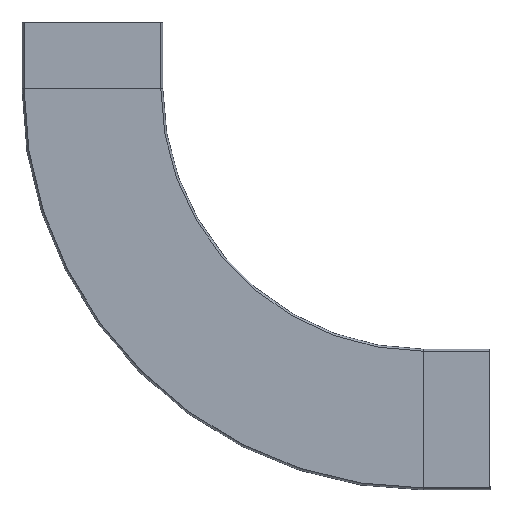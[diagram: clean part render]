
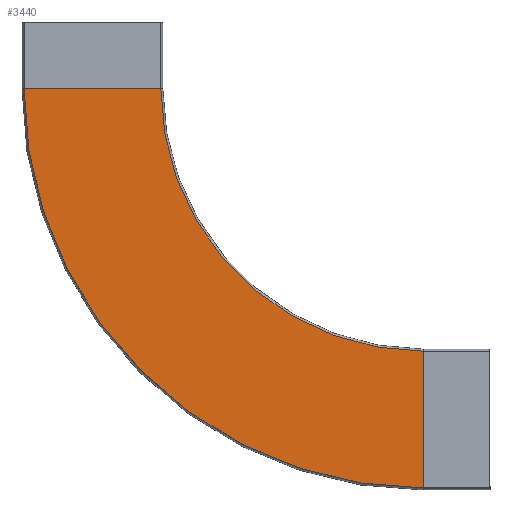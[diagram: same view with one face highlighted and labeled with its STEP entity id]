
A CAD part, front view. The second image highlights one B-rep face of the part: STEP entity #3440.
In plain terms, the highlighted planar face has unit normal (0, -1, 0).
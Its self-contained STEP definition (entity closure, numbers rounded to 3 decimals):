
#297 = EDGE_LOOP ( 'NONE', ( #4542, #4750, #4769, #4796 ) ) ;
#960 = CARTESIAN_POINT ( 'NONE',  ( 200., -56.5, -198.725 ) ) ;
#980 = CARTESIAN_POINT ( 'NONE',  ( -41.275, -56.5, -40. ) ) ;
#1268 = AXIS2_PLACEMENT_3D ( 'NONE', #5085, #5014, #4907 ) ;
#1292 = AXIS2_PLACEMENT_3D ( 'NONE', #4709, #4774, #4753 ) ;
#1509 = VECTOR ( 'NONE', #3480, 1000. ) ;
#1644 = LINE ( 'NONE', #5139, #1509 ) ;
#2272 = AXIS2_PLACEMENT_3D ( 'NONE', #4910, #4714, #4701 ) ;
#2374 = EDGE_CURVE ( 'NONE', #5570, #4146, #1644, .T. ) ;
#2380 = VERTEX_POINT ( 'NONE', #3281 ) ;
#2915 = VECTOR ( 'NONE', #5248, 1000. ) ;
#2922 = CIRCLE ( 'NONE', #1292, 158.725 ) ;
#2948 = CIRCLE ( 'NONE', #1268, 241.275 ) ;
#2957 = LINE ( 'NONE', #5126, #2915 ) ;
#3090 = VERTEX_POINT ( 'NONE', #960 ) ;
#3281 = CARTESIAN_POINT ( 'NONE',  ( 200., -56.5, -281.275 ) ) ;
#3440 = ADVANCED_FACE ( 'NONE', ( #3952 ), #4761, .F. ) ;
#3480 = DIRECTION ( 'NONE',  ( -1., 0., 0. ) ) ;
#3806 = EDGE_CURVE ( 'NONE', #2380, #4146, #2948, .T. ) ;
#3810 = EDGE_CURVE ( 'NONE', #2380, #3090, #2957, .T. ) ;
#3815 = EDGE_CURVE ( 'NONE', #3090, #5570, #2922, .T. ) ;
#3952 = FACE_OUTER_BOUND ( 'NONE', #297, .T. ) ;
#4072 = CARTESIAN_POINT ( 'NONE',  ( 41.275, -56.5, -40. ) ) ;
#4146 = VERTEX_POINT ( 'NONE', #980 ) ;
#4542 = ORIENTED_EDGE ( 'NONE', *, *, #2374, .T. ) ;
#4701 = DIRECTION ( 'NONE',  ( 0., 0., 1. ) ) ;
#4709 = CARTESIAN_POINT ( 'NONE',  ( 200., -56.5, -40. ) ) ;
#4714 = DIRECTION ( 'NONE',  ( 0., 1., 0. ) ) ;
#4750 = ORIENTED_EDGE ( 'NONE', *, *, #3806, .F. ) ;
#4753 = DIRECTION ( 'NONE',  ( 0., 0., 1. ) ) ;
#4761 = PLANE ( 'NONE',  #2272 ) ;
#4769 = ORIENTED_EDGE ( 'NONE', *, *, #3810, .T. ) ;
#4774 = DIRECTION ( 'NONE',  ( 0., 1., 0. ) ) ;
#4796 = ORIENTED_EDGE ( 'NONE', *, *, #3815, .T. ) ;
#4907 = DIRECTION ( 'NONE',  ( 0., 0., 1. ) ) ;
#4910 = CARTESIAN_POINT ( 'NONE',  ( 200., -56.5, -198.725 ) ) ;
#5014 = DIRECTION ( 'NONE',  ( 0., 1., 0. ) ) ;
#5085 = CARTESIAN_POINT ( 'NONE',  ( 200., -56.5, -40. ) ) ;
#5126 = CARTESIAN_POINT ( 'NONE',  ( 200., -56.5, -198.725 ) ) ;
#5139 = CARTESIAN_POINT ( 'NONE',  ( 0., -56.5, -40. ) ) ;
#5248 = DIRECTION ( 'NONE',  ( 0., 0., 1. ) ) ;
#5570 = VERTEX_POINT ( 'NONE', #4072 ) ;
